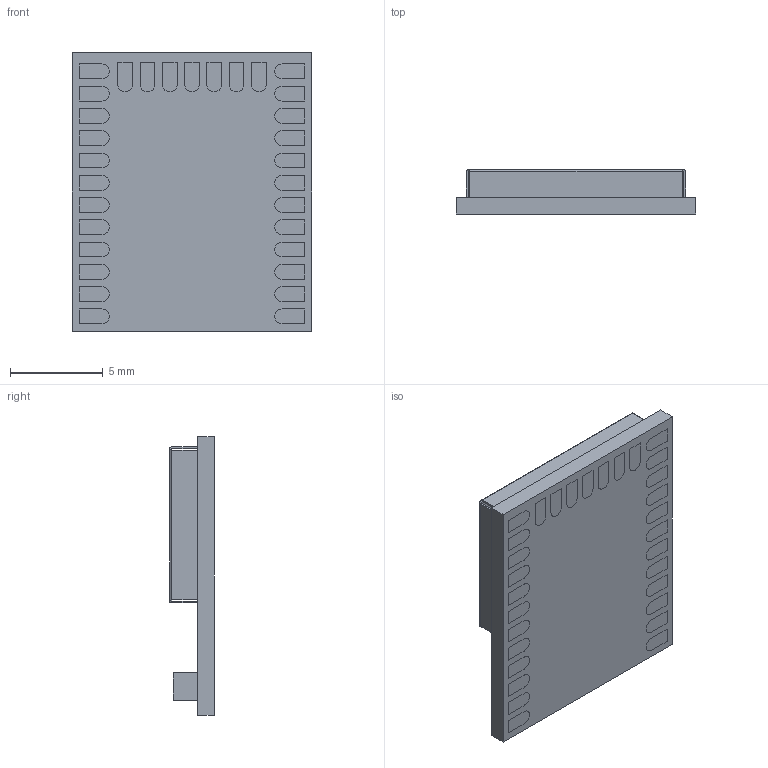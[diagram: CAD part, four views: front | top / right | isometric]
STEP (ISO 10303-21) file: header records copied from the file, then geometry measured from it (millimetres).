
FILE_DESCRIPTION (( 'STEP AP214' ), '1' );
FILE_NAME ('BGM220PC22HNA2.STEP', '2022-10-23T14:47:20', ( '' ), ( '' ), 'SwSTEP 2.0', 'SolidWorks 2017', '' );
FILE_SCHEMA (( 'AUTOMOTIVE_DESIGN' ));
Length unit declared in the file: millimetre
Products named in the file (1): BGM220PC22HNA2
Bounding box: 12.9 x 2.4 x 15 mm (x, y, z)
Volume: 195.3 mm3; surface area: 907.5 mm2
Topology: 37 solids, 37 shells, 432 faces, 951 edges, 626 vertices
Faces by surface type: plane 340, cylinder 84, bspline 8
Entity records: 12189 total; most frequent: CARTESIAN_POINT 2138, DIRECTION 1953, ORIENTED_EDGE 1902, EDGE_CURVE 951, LINE 783, VECTOR 783, VERTEX_POINT 626, AXIS2_PLACEMENT_3D 585
